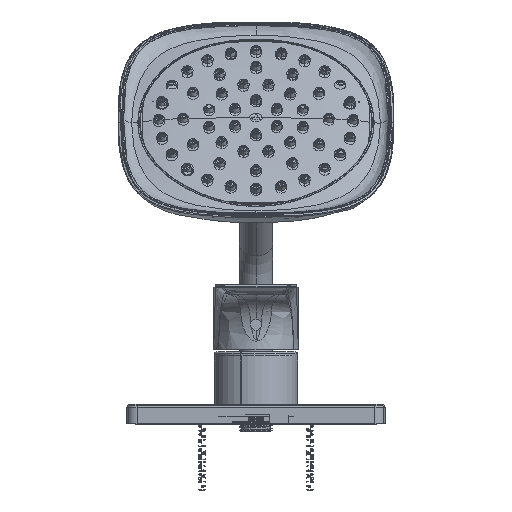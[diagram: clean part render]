
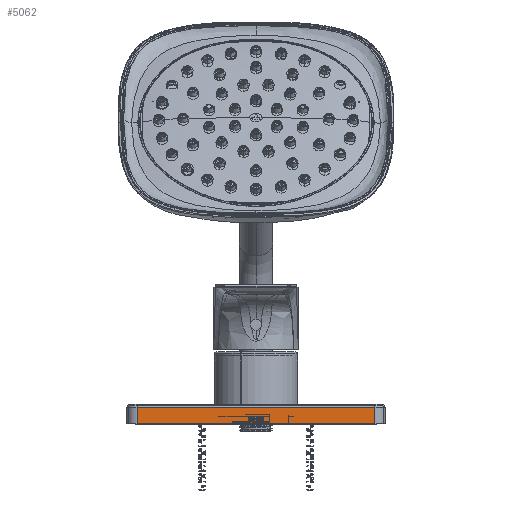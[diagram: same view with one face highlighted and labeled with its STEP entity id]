
A CAD part, front view. The second image highlights one B-rep face of the part: STEP entity #5062.
In plain terms, the highlighted planar face has unit normal (0, -1, 0).
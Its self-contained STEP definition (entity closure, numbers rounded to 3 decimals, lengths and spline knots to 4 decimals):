
#55 = VECTOR ( 'NONE', #35438, 39.3701 ) ;
#598 = CARTESIAN_POINT ( 'NONE',  ( -2.875, -3.125, 0.4 ) ) ;
#994 = ORIENTED_EDGE ( 'NONE', *, *, #67708, .T. ) ;
#1650 = AXIS2_PLACEMENT_3D ( 'NONE', #70276, #22751, #71622 ) ;
#2334 = VECTOR ( 'NONE', #37290, 39.3701 ) ;
#4159 = EDGE_CURVE ( 'NONE', #26702, #70543, #41331, .T. ) ;
#4189 = VECTOR ( 'NONE', #60298, 39.3701 ) ;
#5062 = ADVANCED_FACE ( 'NONE', ( #57595, #84759 ), #69849, .T. ) ;
#5368 = ORIENTED_EDGE ( 'NONE', *, *, #81251, .F. ) ;
#5864 = CARTESIAN_POINT ( 'NONE',  ( -2.875, -3.125, 0.4 ) ) ;
#6312 = VECTOR ( 'NONE', #78192, 39.3701 ) ;
#7792 = ORIENTED_EDGE ( 'NONE', *, *, #89295, .F. ) ;
#8769 = CARTESIAN_POINT ( 'NONE',  ( 0.18, -3.125, 0.155 ) ) ;
#9206 = LINE ( 'NONE', #69436, #36193 ) ;
#9701 = CARTESIAN_POINT ( 'NONE',  ( 0.18, -3.125, 0.085 ) ) ;
#11081 = EDGE_CURVE ( 'NONE', #66687, #26702, #9206, .T. ) ;
#12375 = VERTEX_POINT ( 'NONE', #43379 ) ;
#12924 = EDGE_CURVE ( 'NONE', #27668, #12375, #81130, .T. ) ;
#16491 = CARTESIAN_POINT ( 'NONE',  ( -0.18, -3.125, 0.085 ) ) ;
#16996 = CARTESIAN_POINT ( 'NONE',  ( 2.875, -3.125, 0. ) ) ;
#17826 = LINE ( 'NONE', #9701, #64172 ) ;
#22751 = DIRECTION ( 'NONE',  ( 0., -1., 0. ) ) ;
#25071 = DIRECTION ( 'NONE',  ( 0., 0., 1. ) ) ;
#25735 = EDGE_LOOP ( 'NONE', ( #88617, #7792, #56210, #57587 ) ) ;
#26508 = EDGE_CURVE ( 'NONE', #79291, #27668, #61813, .T. ) ;
#26702 = VERTEX_POINT ( 'NONE', #70364 ) ;
#27668 = VERTEX_POINT ( 'NONE', #69848 ) ;
#29977 = LINE ( 'NONE', #598, #55 ) ;
#32054 = ORIENTED_EDGE ( 'NONE', *, *, #26508, .T. ) ;
#32745 = VERTEX_POINT ( 'NONE', #5864 ) ;
#35438 = DIRECTION ( 'NONE',  ( -1., 0., 0. ) ) ;
#35479 = DIRECTION ( 'NONE',  ( -1., 0., 0. ) ) ;
#35733 = ORIENTED_EDGE ( 'NONE', *, *, #12924, .T. ) ;
#36193 = VECTOR ( 'NONE', #35479, 39.3701 ) ;
#37290 = DIRECTION ( 'NONE',  ( 0., 0., 1. ) ) ;
#37317 = VECTOR ( 'NONE', #82183, 39.3701 ) ;
#37569 = VERTEX_POINT ( 'NONE', #87520 ) ;
#41331 = LINE ( 'NONE', #79948, #62262 ) ;
#43379 = CARTESIAN_POINT ( 'NONE',  ( 2.875, -3.125, 0.4 ) ) ;
#45532 = DIRECTION ( 'NONE',  ( 0., 0., -1. ) ) ;
#50120 = CARTESIAN_POINT ( 'NONE',  ( -0.18, -3.125, 0.085 ) ) ;
#56210 = ORIENTED_EDGE ( 'NONE', *, *, #4159, .F. ) ;
#57587 = ORIENTED_EDGE ( 'NONE', *, *, #11081, .F. ) ;
#57595 = FACE_BOUND ( 'NONE', #25735, .T. ) ;
#59251 = EDGE_LOOP ( 'NONE', ( #35733, #994, #5368, #32054 ) ) ;
#60298 = DIRECTION ( 'NONE',  ( 0., 0., 1. ) ) ;
#61813 = LINE ( 'NONE', #74498, #37317 ) ;
#62262 = VECTOR ( 'NONE', #45532, 39.3701 ) ;
#64172 = VECTOR ( 'NONE', #25071, 39.3701 ) ;
#66687 = VERTEX_POINT ( 'NONE', #8769 ) ;
#67708 = EDGE_CURVE ( 'NONE', #12375, #32745, #29977, .T. ) ;
#68637 = CARTESIAN_POINT ( 'NONE',  ( -2.875, -3.125, 0. ) ) ;
#69436 = CARTESIAN_POINT ( 'NONE',  ( -0.18, -3.125, 0.155 ) ) ;
#69848 = CARTESIAN_POINT ( 'NONE',  ( 2.875, -3.125, 0. ) ) ;
#69849 = PLANE ( 'NONE',  #1650 ) ;
#70276 = CARTESIAN_POINT ( 'NONE',  ( -2.875, -3.125, 0. ) ) ;
#70364 = CARTESIAN_POINT ( 'NONE',  ( -0.18, -3.125, 0.155 ) ) ;
#70506 = LINE ( 'NONE', #50120, #6312 ) ;
#70543 = VERTEX_POINT ( 'NONE', #16491 ) ;
#71622 = DIRECTION ( 'NONE',  ( 0., 0., -1. ) ) ;
#74338 = EDGE_CURVE ( 'NONE', #37569, #66687, #17826, .T. ) ;
#74498 = CARTESIAN_POINT ( 'NONE',  ( -2.875, -3.125, 0. ) ) ;
#78192 = DIRECTION ( 'NONE',  ( 1., 0., 0. ) ) ;
#79291 = VERTEX_POINT ( 'NONE', #68637 ) ;
#79819 = CARTESIAN_POINT ( 'NONE',  ( -2.875, -3.125, 0. ) ) ;
#79948 = CARTESIAN_POINT ( 'NONE',  ( -0.18, -3.125, 0.085 ) ) ;
#81130 = LINE ( 'NONE', #16996, #4189 ) ;
#81251 = EDGE_CURVE ( 'NONE', #79291, #32745, #86619, .T. ) ;
#82183 = DIRECTION ( 'NONE',  ( 1., 0., 0. ) ) ;
#84759 = FACE_OUTER_BOUND ( 'NONE', #59251, .T. ) ;
#86619 = LINE ( 'NONE', #79819, #2334 ) ;
#87520 = CARTESIAN_POINT ( 'NONE',  ( 0.18, -3.125, 0.085 ) ) ;
#88617 = ORIENTED_EDGE ( 'NONE', *, *, #74338, .F. ) ;
#89295 = EDGE_CURVE ( 'NONE', #70543, #37569, #70506, .T. ) ;
